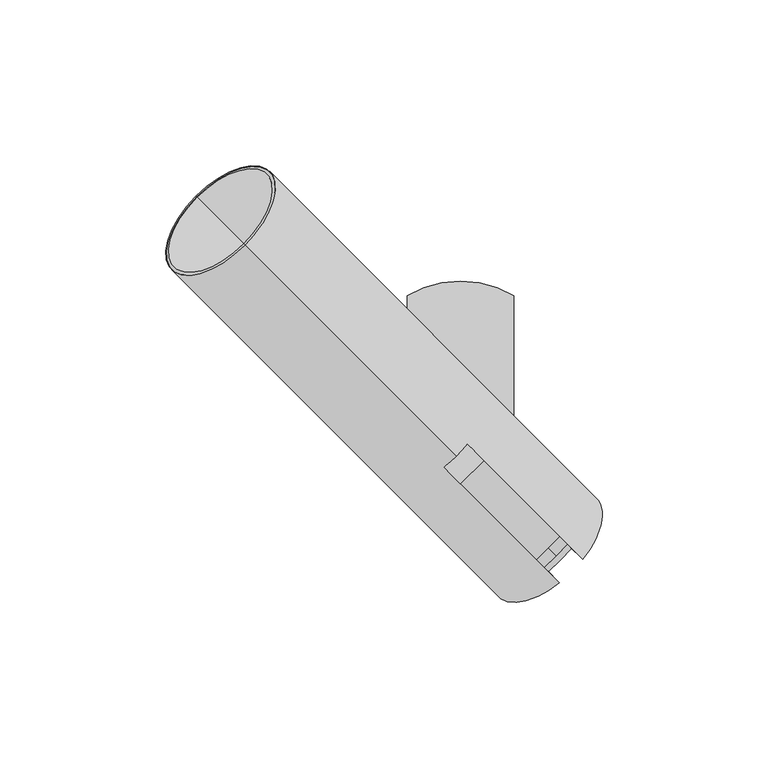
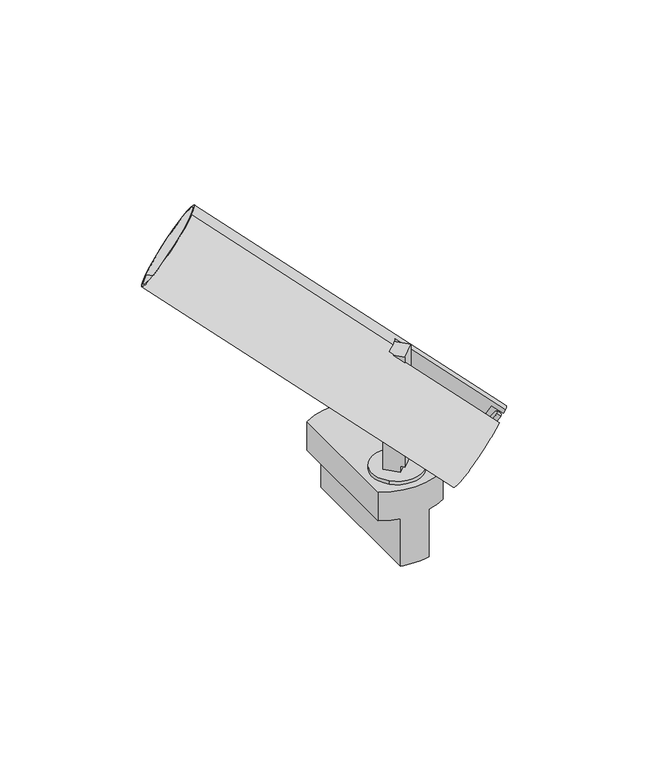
"""IFC4 building model written with IfcOpenShell, lengths in millimetres: light fixture geometry, PIPES T XS : 490lm 7,8W 930 38°."""

from ifc_helpers import new_model, si_unit, point, frame, frame_2d, origin, origin_2d, place, context, project, spatial, polyline, circle_curve, trimmed, segment, composite_curve, outline, extrude, source, transform, mapped, element, save
from ifc_brep_helpers import plane_surface, cylinder_surface, revolved_surface, advanced_brep


def light_fixture_0cd06d8f(model_context):
    return source(origin(), model_context, "Body", "SolidModel", [
        extrude(outline(composite_curve([segment(polyline([(39.7303383, 0.0), (39.7303383, -7.9999999), (36.7303383, -7.9999999), (36.7303383, -10.0), (-21.31827, -10.0), (-21.31827, -2.0000001)]), True, "CONTINUOUS"), segment(trimmed(circle_curve(frame_2d((-15.691322, -2.0000001)), 5.626948), [point((-21.31827, -2.0000001))], [point((-15.691322, 3.626948))], False, "CARTESIAN"), True, "CONTINUOUS"), segment(polyline([(-15.691322, 3.626948), (-9.8735653, 3.626948)]), True, "CONTINUOUS"), segment(trimmed(circle_curve(frame_2d((-17.7182036, -2.2388678)), 9.7952104), [point((-9.8735653, 3.626948))], [point((-8.1822916, 0.0))], False, "CARTESIAN"), True, "CONTINUOUS"), segment(polyline([(-8.1822916, 0.0), (39.7303383, 0.0)]), True, "CONTINUOUS")], self_intersect=False)), frame((-7.0710678, 0.0, 56.5303383), z_axis=(0.7071067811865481, 0.707106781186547, 0.0), x_axis=(0.0, 0.0, -1.0)), (0.0, 0.0, 1.0), 10.0),
        extrude(outline(composite_curve([segment(trimmed(circle_curve(origin_2d(), 12.5), [point((8.8388348, 8.8388348))], [point((-8.8388348, -8.8388348))], False, "CARTESIAN"), True, "CONTINUOUS"), segment(trimmed(circle_curve(origin_2d(), 12.5), [point((-8.8388348, -8.8388348))], [point((8.8388348, 8.8388348))], False, "CARTESIAN"), True, "CONTINUOUS")], self_intersect=False)), frame((0.0, 0.0, 15.0), z_axis=(0.0, 0.0, 1.0), x_axis=(1.0, 0.0, 0.0)), (0.0, 0.0, 1.0), 1.8),
        advanced_brep(
        [(-7.1153658, -15.2862846, -25.0), (-7.1153658, 53.3498174, -25.0), (7.1153658, 53.3498174, -25.0), (7.1153658, -15.2862846, -25.0), (-16.1153658, 49.7317664, 15.0), (-16.1153658, -11.6682336, 15.0), (16.1153658, -11.6682336, 15.0), (16.1153658, 49.7317664, 15.0), (-16.1153658, 49.7317664, 0.0), (-16.1153658, -11.6682336, 0.0), (-7.1153658, -15.2862846, 0.0), (7.1153658, -15.2862846, 0.0), (16.1153658, -11.6682336, 0.0), (16.1153658, 49.7317664, 0.0), (7.1153658, 53.3498174, 0.0), (-7.1153658, 53.3498174, 0.0)],
        [
            (0, 1),
            (1, 2, circle_curve(frame((0.0, 22.6472542, -25.0), z_axis=(0.0, 0.0, -1.0), x_axis=(1.0, 0.0, 0.0)), 31.5162786)),
            (2, 3),
            (3, 0, circle_curve(frame((0.0, 15.4162786, -25.0), z_axis=(0.0, 0.0, -1.0), x_axis=(1.0, 0.0, 0.0)), 31.5162786)),
            (4, 5),
            (5, 6, circle_curve(frame((0.0, 15.4162786, 15.0), z_axis=(0.0, 0.0, 1.0), x_axis=(1.0, 0.0, 0.0)), 31.5162786)),
            (6, 7),
            (7, 4, circle_curve(frame((0.0, 22.6472542, 15.0), z_axis=(0.0, 0.0, 1.0), x_axis=(1.0, 0.0, 0.0)), 31.5162786)),
            (4, 8),
            (8, 9),
            (9, 5),
            (9, 10, circle_curve(frame((0.0, 15.4162786, 0.0), z_axis=(0.0, 0.0, 1.0), x_axis=(1.0, 0.0, 0.0)), 31.5162786)),
            (10, 0),
            (3, 11),
            (11, 12, circle_curve(frame((0.0, 15.4162786, 0.0), z_axis=(0.0, 0.0, 1.0), x_axis=(1.0, 0.0, 0.0)), 31.5162786)),
            (12, 6),
            (12, 13),
            (13, 7),
            (13, 14, circle_curve(frame((0.0, 22.6472542, 0.0), z_axis=(0.0, 0.0, 1.0), x_axis=(1.0, 0.0, 0.0)), 31.5162786)),
            (14, 2),
            (1, 15),
            (15, 8, circle_curve(frame((0.0, 22.6472542, 0.0), z_axis=(0.0, 0.0, 1.0), x_axis=(1.0, 0.0, 0.0)), 31.5162786)),
            (15, 10),
            (11, 14),
        ],
        [
            plane_surface(frame((-16.1153658, -11.6883244, -25.0), z_axis=(0.0, 0.0, -1.0), x_axis=(0.0, 1.0, 0.0))),
            plane_surface(frame((-16.1153658, -11.6883244, 15.0), z_axis=(0.0, 0.0, 1.0), x_axis=(0.0, -1.0, 0.0))),
            plane_surface(frame((-16.1153658, 49.7317664, 15.0), z_axis=(-1.0, 0.0, 0.0), x_axis=(0.0, 0.0, -1.0))),
            cylinder_surface(frame((0.0, 15.4162786, -25.0), z_axis=(0.0, 0.0, 1.0), x_axis=(1.0, 0.0, 0.0)), 31.5162786),
            plane_surface(frame((16.1153658, -11.6682336, 15.0), z_axis=(1.0, 0.0, 0.0), x_axis=(0.0, 0.0, -1.0))),
            cylinder_surface(frame((0.0, 22.6472542, -25.0), z_axis=(0.0, 0.0, 1.0), x_axis=(1.0, 0.0, 0.0)), 31.5162786),
            plane_surface(frame((-7.1153658, 58.6979838, 0.0), z_axis=(0.0, 0.0, -1.0), x_axis=(-1.0, 0.0, 0.0))),
            plane_surface(frame((-7.1153658, -21.3020162, 0.0), z_axis=(-1.0, 0.0, 0.0), x_axis=(0.0, 0.0, -1.0))),
            plane_surface(frame((7.1153658, -11.6883244, 0.0), z_axis=(0.0, 0.0, -1.0), x_axis=(0.0, -1.0, 0.0))),
            plane_surface(frame((7.1153658, 58.6979838, 0.0), z_axis=(1.0, 0.0, 0.0), x_axis=(0.0, 0.0, -1.0))),
        ],
        [
            (0, [[1, 2, 3, 4]]),
            (1, [[5, 6, 7, 8]]),
            (2, [[-5, 9, 10, 11]]),
            (3, [[-6, -11, 12, 13, -4, 14, 15, 16]]),
            (4, [[-7, -16, 17, 18]]),
            (5, [[-8, -18, 19, 20, -2, 21, 22, -9]]),
            (6, [[23, -12, -10, -22]]),
            (7, [[-23, -21, -1, -13]]),
            (8, [[24, -19, -17, -15]]),
            (9, [[-24, -14, -3, -20]]),
        ],
    ),
        advanced_brep(
        [(-1.2940952, 8.365163, 71.169873), (29.936899, -22.8658312, 45.669873), (32.5285524, -25.4574846, 52.0181014), (36.202787, -29.1317192, 49.0181014), (36.9331489, -29.8620811, 50.8071153), (2.02792, 5.0431478, 79.3071153), (-8.365163, 1.2940952, 71.169873), (-5.0431478, -2.02792, 79.3071153), (29.8620811, -36.9331489, 50.8071153), (29.1317192, -36.202787, 49.0181014), (25.4574846, -32.5285524, 52.0181014), (22.8658312, -29.936899, 45.669873), (26.4013651, -26.4013651, 45.669873), (-1.2940952, 1.2940952, 79.830127), (-64.9808285, 64.9808285, 131.830127), (-79.8300709, 79.8300709, 95.4570601), (18.7618912, -18.7618912, 14.9570601), (19.468998, -19.468998, 16.6891109), (15.7947634, -15.7947634, 19.6891109), (22.5122778, -22.5122778, 36.1435935), (-64.6120936, 64.6120936, 95.7333395), (-57.5410258, 57.5410258, 113.0538476), (-61.0765597, 61.0765597, 104.3935935)],
        [
            (0, 1),
            (1, 2),
            (2, 3),
            (3, 4),
            (4, 5),
            (5, 0),
            (6, 7),
            (7, 8),
            (8, 9),
            (9, 10),
            (10, 11),
            (11, 6),
            (0, 6),
            (11, 12),
            (12, 1),
            (5, 13, circle_curve(frame((-8.7187164, 8.7187164, 61.6435935), z_axis=(0.6123724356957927, -0.6123724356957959, -0.5000000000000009), x_axis=(0.353553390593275, -0.35355339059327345, 0.8660254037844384)), 21.0)),
            (13, 7, circle_curve(frame((-8.7187164, 8.7187164, 61.6435935), z_axis=(0.6123724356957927, -0.6123724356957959, -0.5000000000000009), x_axis=(0.353553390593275, -0.35355339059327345, 0.8660254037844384)), 21.0)),
            (14, 15, circle_curve(frame((-72.4054497, 72.4054497, 113.6435935), z_axis=(0.6123724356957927, -0.6123724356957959, -0.5000000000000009), x_axis=(0.353553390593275, -0.35355339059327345, 0.8660254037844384)), 21.0)),
            (15, 16),
            (16, 8, circle_curve(frame((26.1865124, -26.1865124, 33.1435935), z_axis=(-0.6123724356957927, 0.6123724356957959, 0.5000000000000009), x_axis=(0.353553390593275, -0.35355339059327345, 0.8660254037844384)), 21.0)),
            (13, 14),
            (15, 14, circle_curve(frame((-72.4054497, 72.4054497, 113.6435935), z_axis=(0.6123724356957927, -0.6123724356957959, -0.5000000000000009), x_axis=(0.353553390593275, -0.35355339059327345, 0.8660254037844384)), 21.0)),
            (4, 16, circle_curve(frame((26.1865124, -26.1865124, 33.1435935), z_axis=(-0.6123724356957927, 0.6123724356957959, 0.5000000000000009), x_axis=(0.353553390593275, -0.35355339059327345, 0.8660254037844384)), 21.0)),
            (16, 17),
            (17, 9, circle_curve(frame((26.1865124, -26.1865124, 33.1435935), z_axis=(-0.6123724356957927, 0.6123724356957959, 0.5000000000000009), x_axis=(0.353553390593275, -0.35355339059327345, 0.8660254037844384)), 19.0)),
            (3, 17, circle_curve(frame((26.1865124, -26.1865124, 33.1435935), z_axis=(-0.6123724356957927, 0.6123724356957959, 0.5000000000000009), x_axis=(0.353553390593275, -0.35355339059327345, 0.8660254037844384)), 19.0)),
            (17, 18),
            (18, 10, circle_curve(frame((22.5122778, -22.5122778, 36.1435935), z_axis=(-0.6123724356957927, 0.6123724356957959, 0.5000000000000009), x_axis=(0.353553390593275, -0.35355339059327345, 0.8660254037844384)), 19.0)),
            (2, 18, circle_curve(frame((22.5122778, -22.5122778, 36.1435935), z_axis=(-0.6123724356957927, 0.6123724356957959, 0.5000000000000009), x_axis=(0.353553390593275, -0.35355339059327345, 0.8660254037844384)), 19.0)),
            (18, 19),
            (19, 12),
            (20, 21, circle_curve(frame((-61.0765597, 61.0765597, 104.3935935), z_axis=(-0.6123724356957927, 0.6123724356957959, 0.5000000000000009), x_axis=(0.353553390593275, -0.35355339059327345, 0.8660254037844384)), 10.0)),
            (21, 22),
            (22, 20),
            (21, 20, circle_curve(frame((-61.0765597, 61.0765597, 104.3935935), z_axis=(-0.6123724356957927, 0.6123724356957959, 0.5000000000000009), x_axis=(0.353553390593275, -0.35355339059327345, 0.8660254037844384)), 10.0)),
            (14, 21),
            (20, 15),
        ],
        [
            plane_surface(frame((-1.2940952, 8.365163, 71.169873), z_axis=(-0.7071067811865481, -0.707106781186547, 0.0), x_axis=(-0.6123724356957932, 0.6123724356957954, 0.5000000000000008))),
            plane_surface(frame((-8.365163, 1.2940952, 71.169873), z_axis=(0.7071067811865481, 0.707106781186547, 0.0), x_axis=(0.6123724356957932, -0.6123724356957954, -0.5000000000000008))),
            plane_surface(frame((-8.365163, 1.2940952, 71.169873), z_axis=(0.3535533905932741, -0.35355339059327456, 0.8660254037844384), x_axis=(0.7071067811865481, 0.707106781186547, 0.0))),
            plane_surface(frame((-1.2940952, -5.7769726, 88.4903811), z_axis=(0.612372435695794, -0.612372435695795, -0.5000000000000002), x_axis=(0.7071067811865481, 0.707106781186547, 0.0))),
            cylinder_surface(frame((31.3625175, -31.3625175, 28.9174031), z_axis=(0.6123724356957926, -0.6123724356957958, -0.5000000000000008), x_axis=(0.353553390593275, -0.35355339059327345, 0.8660254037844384)), 21.0),
            plane_surface(frame((26.1865124, -26.1865124, 33.1435935), z_axis=(0.6123724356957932, -0.6123724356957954, -0.5000000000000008), x_axis=(0.35355339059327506, -0.3535533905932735, 0.8660254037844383))),
            revolved_surface(polyline([(32.90402684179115, -32.904026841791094, 49.59807622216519), (29.2297922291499, -29.229792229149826, 52.59807622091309)]), (31.3625175, -31.3625175, 28.9174031), (0.6123724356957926, -0.6123724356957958, -0.5000000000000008)),
            revolved_surface(polyline([(32.90402684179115, -32.904026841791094, 49.59807622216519), (29.229792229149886, -29.229792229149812, 52.5980762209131)]), (31.3625175, -31.3625175, 28.9174031), (0.6123724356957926, -0.6123724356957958, -0.5000000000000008)),
            plane_surface(frame((22.5122778, -22.5122778, 36.1435935), z_axis=(0.6123724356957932, -0.6123724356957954, -0.5000000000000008), x_axis=(0.35355339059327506, -0.3535533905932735, 0.8660254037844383))),
            plane_surface(frame((-61.0765597, 61.0765597, 104.3935935), z_axis=(-0.6123724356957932, 0.6123724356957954, 0.5000000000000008), x_axis=(0.35355339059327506, -0.3535533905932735, 0.8660254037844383))),
            revolved_surface(polyline([(-57.5410258, 57.5410258, 113.0538476), (-64.9808285, 64.9808285, 131.830127)]), (31.3625175, -31.3625175, 28.9174031), (0.6123724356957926, -0.6123724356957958, -0.5000000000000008)),
        ],
        [
            (0, [[1, 2, 3, 4, 5, 6]]),
            (1, [[7, 8, 9, 10, 11, 12]]),
            (2, [[13, -12, 14, 15, -1]]),
            (3, [[-13, -6, 16, 17, -7]]),
            (4, [[18, 19, 20, -8, -17, 21]]),
            (4, [[-19, 22, -21, -16, -5, 23]]),
            (5, [[24, 25, -9, -20]]),
            (5, [[-24, -23, -4, 26]]),
            (6, [[27, 28, -10, -25]]),
            (7, [[-27, -26, -3, 29]]),
            (8, [[30, 31, -14, -11, -28]]),
            (8, [[-30, -29, -2, -15, -31]]),
            (9, [[32, 33, 34]]),
            (9, [[-33, 35, -34]]),
            (10, [[-18, 36, -32, 37]]),
            (10, [[-22, -37, -35, -36]]),
        ],
    ),
        advanced_brep(
        [(32.3863887, -25.3153209, 43.669873), (33.6111336, -26.5400658, 42.669873), (35.4642575, -28.3931897, 47.209081), (34.2395126, -27.1684448, 48.209081), (26.5400658, -33.6111336, 42.669873), (25.3153209, -32.3863887, 43.669873), (27.1684448, -34.2395126, 48.209081), (28.3931897, -35.4642575, 47.209081), (28.8508548, -28.8508548, 43.669873), (30.0755997, -30.0755997, 42.669873), (24.9617675, -24.9617675, 34.1435935), (18.9536073, -18.9536073, 19.4266667), (20.1783522, -20.1783522, 18.4266667), (26.1865124, -26.1865124, 33.1435935)],
        [
            (0, 1),
            (1, 2),
            (2, 3),
            (3, 0),
            (4, 5),
            (5, 6),
            (6, 7),
            (7, 4),
            (0, 8),
            (8, 5),
            (4, 9),
            (9, 1),
            (10, 11),
            (11, 6, circle_curve(frame((24.9617675, -24.9617675, 34.1435935), z_axis=(-0.6123724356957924, 0.6123724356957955, 0.5000000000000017), x_axis=(0.3535533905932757, -0.3535533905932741, 0.8660254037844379)), 16.9936434)),
            (8, 10),
            (3, 11, circle_curve(frame((24.9617675, -24.9617675, 34.1435935), z_axis=(-0.6123724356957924, 0.6123724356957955, 0.5000000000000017), x_axis=(0.3535533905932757, -0.3535533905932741, 0.8660254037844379)), 16.9936434)),
            (11, 12),
            (12, 7, circle_curve(frame((26.1865124, -26.1865124, 33.1435935), z_axis=(-0.6123724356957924, 0.6123724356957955, 0.5000000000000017), x_axis=(0.3535533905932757, -0.3535533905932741, 0.8660254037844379)), 16.9936434)),
            (2, 12, circle_curve(frame((26.1865124, -26.1865124, 33.1435935), z_axis=(-0.6123724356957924, 0.6123724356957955, 0.5000000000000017), x_axis=(0.3535533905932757, -0.3535533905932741, 0.8660254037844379)), 16.9936434)),
            (12, 13),
            (13, 9),
        ],
        [
            plane_surface(frame((-1.2940952, 8.365163, 71.169873), z_axis=(-0.7071067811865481, -0.707106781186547, 0.0), x_axis=(-0.6123724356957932, 0.6123724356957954, 0.5000000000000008))),
            plane_surface(frame((-8.365163, 1.2940952, 71.169873), z_axis=(0.7071067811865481, 0.707106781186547, 0.0), x_axis=(0.6123724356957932, -0.6123724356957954, -0.5000000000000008))),
            plane_surface(frame((-8.365163, 1.2940952, 71.169873), z_axis=(0.3535533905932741, -0.35355339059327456, 0.8660254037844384), x_axis=(0.7071067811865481, 0.707106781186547, 0.0))),
            plane_surface(frame((24.9617675, -24.9617675, 34.1435935), z_axis=(-0.6123724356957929, 0.612372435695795, 0.5000000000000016), x_axis=(0.3535533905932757, -0.3535533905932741, 0.8660254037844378))),
            cylinder_surface(frame((-54.6758097, 54.6758097, 99.1674031), z_axis=(0.6123724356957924, -0.6123724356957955, -0.5000000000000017), x_axis=(0.3535533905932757, -0.3535533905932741, 0.8660254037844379)), 16.9936434),
            plane_surface(frame((26.1865124, -26.1865124, 33.1435935), z_axis=(0.6123724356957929, -0.612372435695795, -0.5000000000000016), x_axis=(0.3535533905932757, -0.3535533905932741, 0.8660254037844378))),
        ],
        [
            (0, [[1, 2, 3, 4]]),
            (1, [[5, 6, 7, 8]]),
            (2, [[-1, 9, 10, -5, 11, 12]]),
            (3, [[13, 14, -6, -10, 15]]),
            (3, [[-13, -15, -9, -4, 16]]),
            (4, [[17, 18, -7, -14]]),
            (4, [[-17, -16, -3, 19]]),
            (5, [[20, 21, -11, -8, -18]]),
            (5, [[-20, -19, -2, -12, -21]]),
        ],
    ),
        advanced_brep(
        [(-65.0233564, 65.0233564, 96.7259555), (-58.3545078, 58.3545078, 113.0612316), (-61.6889321, 61.6889321, 104.8935935), (-79.4187404, 79.4187404, 96.4646101), (-65.3921591, 65.3921591, 130.822577), (-79.8300709, 79.8300709, 95.4570601), (-64.9808285, 64.9808285, 131.830127), (-64.6120936, 64.6120936, 95.7333395), (-57.5410258, 57.5410258, 113.0538476), (-61.0765597, 61.0765597, 104.3935935)],
        [
            (0, 1, circle_curve(frame((-61.6889321, 61.6889321, 104.8935935), z_axis=(-0.6123724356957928, 0.6123724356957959, 0.5000000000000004), x_axis=(0.3535533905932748, -0.35355339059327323, 0.8660254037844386)), 9.431176)),
            (1, 2),
            (2, 0),
            (1, 0, circle_curve(frame((-61.6889321, 61.6889321, 104.8935935), z_axis=(-0.6123724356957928, 0.6123724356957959, 0.5000000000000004), x_axis=(0.3535533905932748, -0.35355339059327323, 0.8660254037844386)), 9.431176)),
            (3, 4, circle_curve(frame((-72.4054497, 72.4054497, 113.6435935), z_axis=(-0.6123724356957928, 0.6123724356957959, 0.5000000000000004), x_axis=(0.3535533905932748, -0.35355339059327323, 0.8660254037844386)), 19.8365814)),
            (4, 1),
            (0, 3),
            (4, 3, circle_curve(frame((-72.4054497, 72.4054497, 113.6435935), z_axis=(-0.6123724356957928, 0.6123724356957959, 0.5000000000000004), x_axis=(0.3535533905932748, -0.35355339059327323, 0.8660254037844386)), 19.8365814)),
            (5, 6, circle_curve(frame((-72.4054497, 72.4054497, 113.6435935), z_axis=(-0.6123724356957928, 0.6123724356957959, 0.5000000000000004), x_axis=(0.3535533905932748, -0.35355339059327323, 0.8660254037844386)), 21.0)),
            (6, 4),
            (3, 5),
            (6, 5, circle_curve(frame((-72.4054497, 72.4054497, 113.6435935), z_axis=(-0.6123724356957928, 0.6123724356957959, 0.5000000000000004), x_axis=(0.3535533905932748, -0.35355339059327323, 0.8660254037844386)), 21.0)),
            (7, 8, circle_curve(frame((-61.0765597, 61.0765597, 104.3935935), z_axis=(-0.6123724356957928, 0.6123724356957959, 0.5000000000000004), x_axis=(0.3535533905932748, -0.35355339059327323, 0.8660254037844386)), 10.0)),
            (8, 6),
            (5, 7),
            (8, 7, circle_curve(frame((-61.0765597, 61.0765597, 104.3935935), z_axis=(-0.6123724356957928, 0.6123724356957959, 0.5000000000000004), x_axis=(0.3535533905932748, -0.35355339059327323, 0.8660254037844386)), 10.0)),
            (9, 8),
            (7, 9),
        ],
        [
            plane_surface(frame((-61.6889321, 61.6889321, 104.8935935), z_axis=(-0.6123724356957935, 0.6123724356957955, 0.5000000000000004), x_axis=(0.35355339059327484, -0.3535533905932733, 0.8660254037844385))),
            revolved_surface(polyline([(-58.3545078, 58.3545078, 113.0612316), (-65.3921591, 65.3921591, 130.822577)]), (43.6099662, -43.6099662, 18.9174031), (0.6123724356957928, -0.6123724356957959, -0.5000000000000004)),
            plane_surface(frame((-72.4054497, 72.4054497, 113.6435935), z_axis=(-0.6123724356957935, 0.6123724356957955, 0.5000000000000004), x_axis=(0.35355339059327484, -0.3535533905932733, 0.8660254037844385))),
            revolved_surface(polyline([(-64.9808285, 64.9808285, 131.830127), (-57.5410258, 57.5410258, 113.0538476)]), (43.6099662, -43.6099662, 18.9174031), (0.6123724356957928, -0.6123724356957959, -0.5000000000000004)),
            plane_surface(frame((-61.0765597, 61.0765597, 104.3935935), z_axis=(0.6123724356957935, -0.6123724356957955, -0.5000000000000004), x_axis=(0.35355339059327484, -0.3535533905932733, 0.8660254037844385))),
        ],
        [
            (0, [[1, 2, 3]]),
            (0, [[4, -3, -2]]),
            (1, [[5, 6, -1, 7]]),
            (1, [[8, -7, -4, -6]]),
            (2, [[9, 10, -5, 11]]),
            (2, [[12, -11, -8, -10]]),
            (3, [[13, 14, -9, 15]]),
            (3, [[16, -15, -12, -14]]),
            (4, [[17, -13, 18]]),
            (4, [[-18, -16, -17]]),
        ],
    ),
    ])


if __name__ == "__main__":
    model = new_model("IFC4")
    model_context = context("Model", 3, world=origin())
    ifc_project = project(units=[si_unit("LENGTHUNIT", "METRE", prefix="MILLI")], contexts=[model_context])
    site = spatial("IfcSite", under=ifc_project)
    building = spatial("IfcBuilding", under=site)
    placement = place(None, origin())
    light_fixture_shape = light_fixture_0cd06d8f(model_context)
    element("IfcLightFixture", 1, ObjectType="PIPES T XS : 490lm 7,8W 930 38°", at=placement, inside=building, context=model_context, shape_type="MappedRepresentation", body=[
        mapped(light_fixture_shape, transform((0.0, 0.0, 0.0), x_axis=(1.0, 0.0, 0.0), y_axis=(0.0, 1.0, 0.0), z_axis=(0.0, 0.0, 1.0))),
    ])
    save(model, "model.ifc")
